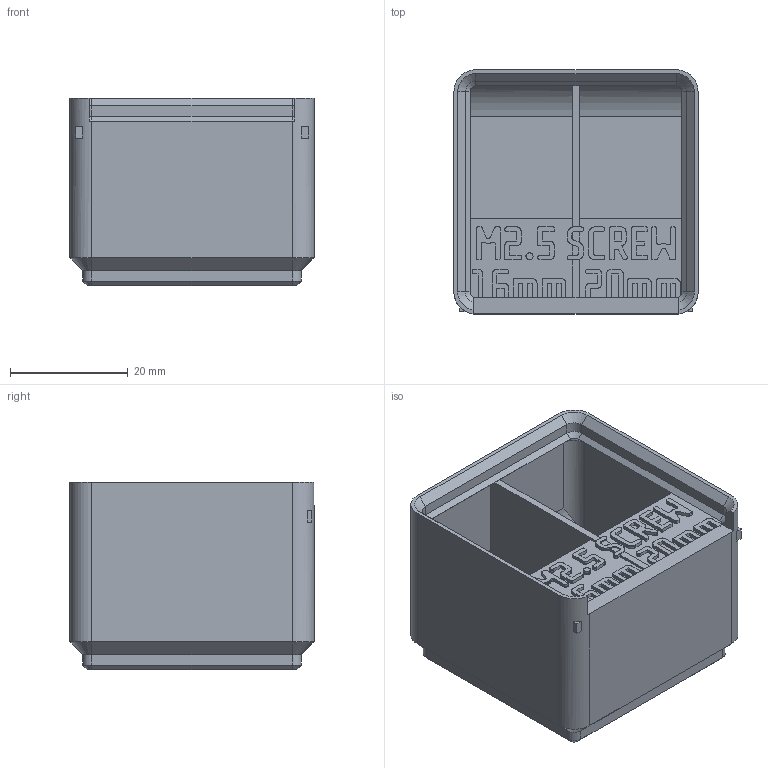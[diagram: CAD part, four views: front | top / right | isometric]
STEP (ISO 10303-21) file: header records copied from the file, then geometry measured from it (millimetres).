
FILE_DESCRIPTION(('Open CASCADE Model'),'2;1');
FILE_NAME('Open CASCADE Shape Model','2026-11-03T10:34:56',('Author'),( 'Open CASCADE'),'Open CASCADE STEP processor 8.0','build123d', 'Unknown');
FILE_SCHEMA(('AUTOMOTIVE_DESIGN { 1 0 10303 214 1 1 1 1 }'));
Products named in the file (1): COMPOUND
Bounding box: 41.5 x 41.5 x 31.9 mm (x, y, z)
Volume: 15352.6 mm3; surface area: 14882.9 mm2
Topology: 1 solids, 1 shells, 1788 faces, 5301 edges, 3518 vertices
Faces by surface type: plane 1750, cone 20, cylinder 18
Entity records: 123688 total; most frequent: CARTESIAN_POINT 26010, DIRECTION 15266, LINE 11504, VECTOR 11504, ORIENTED_EDGE 10602, PCURVE 10602, DEFINITIONAL_REPRESENTATION 10602, EDGE_CURVE 5301
